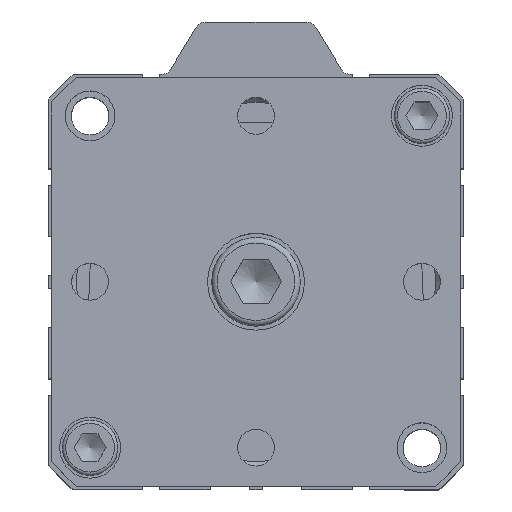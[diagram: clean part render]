
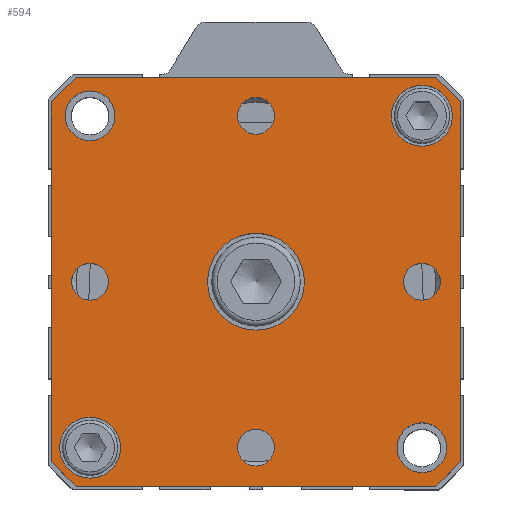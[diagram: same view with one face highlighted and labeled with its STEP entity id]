
A CAD part, top view. The second image highlights one B-rep face of the part: STEP entity #594.
In plain terms, the highlighted planar face has unit normal (0, 0, 1).
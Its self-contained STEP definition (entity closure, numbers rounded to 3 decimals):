
#196=CARTESIAN_POINT('',(32.859,35.684,85.5));
#197=VERTEX_POINT('',#196);
#198=CARTESIAN_POINT('',(37.359,31.184,85.5));
#199=VERTEX_POINT('',#198);
#200=CARTESIAN_POINT('',(32.859,35.684,85.5));
#201=DIRECTION('',(0.707,-0.707,0.0));
#202=VECTOR('',#201,6.364);
#203=LINE('',#200,#202);
#204=EDGE_CURVE('',#197,#199,#203,.T.);
#383=CARTESIAN_POINT('',(37.359,-33.816,85.5));
#384=VERTEX_POINT('',#383);
#385=CARTESIAN_POINT('',(37.359,31.184,85.5));
#386=DIRECTION('',(0.0,-1.0,0.0));
#387=VECTOR('',#386,65.);
#388=LINE('',#385,#387);
#389=EDGE_CURVE('',#199,#384,#388,.T.);
#406=CARTESIAN_POINT('',(32.859,-38.316,85.5));
#407=VERTEX_POINT('',#406);
#408=CARTESIAN_POINT('',(37.359,-33.816,85.5));
#409=DIRECTION('',(-0.707,-0.707,0.0));
#410=VECTOR('',#409,6.364);
#411=LINE('',#408,#410);
#412=EDGE_CURVE('',#384,#407,#411,.T.);
#430=CARTESIAN_POINT('',(-36.641,31.184,85.5));
#431=VERTEX_POINT('',#430);
#432=CARTESIAN_POINT('',(-32.141,35.684,85.5));
#433=VERTEX_POINT('',#432);
#434=CARTESIAN_POINT('',(-36.641,31.184,85.5));
#435=DIRECTION('',(0.707,0.707,0.0));
#436=VECTOR('',#435,6.364);
#437=LINE('',#434,#436);
#438=EDGE_CURVE('',#431,#433,#437,.T.);
#456=CARTESIAN_POINT('',(0.359,-1.316,85.5));
#457=DIRECTION('',(0.0,0.0,1.0));
#458=DIRECTION('',(1.0,0.0,0.0));
#459=AXIS2_PLACEMENT_3D('',#456,#457,#458);
#460=PLANE('',#459);
#461=ORIENTED_EDGE('',*,*,#204,.F.);
#462=CARTESIAN_POINT('',(-32.141,35.684,85.5));
#463=DIRECTION('',(1.0,0.0,0.0));
#464=VECTOR('',#463,65.0);
#465=LINE('',#462,#464);
#466=EDGE_CURVE('',#433,#197,#465,.T.);
#467=ORIENTED_EDGE('',*,*,#466,.F.);
#468=ORIENTED_EDGE('',*,*,#438,.F.);
#469=CARTESIAN_POINT('',(-36.641,-33.816,85.5));
#470=VERTEX_POINT('',#469);
#471=CARTESIAN_POINT('',(-36.641,-33.816,85.5));
#472=DIRECTION('',(0.0,1.0,0.0));
#473=VECTOR('',#472,65.0);
#474=LINE('',#471,#473);
#475=EDGE_CURVE('',#470,#431,#474,.T.);
#476=ORIENTED_EDGE('',*,*,#475,.F.);
#477=CARTESIAN_POINT('',(-32.141,-38.316,85.5));
#478=VERTEX_POINT('',#477);
#479=CARTESIAN_POINT('',(-32.141,-38.316,85.5));
#480=DIRECTION('',(-0.707,0.707,0.0));
#481=VECTOR('',#480,6.364);
#482=LINE('',#479,#481);
#483=EDGE_CURVE('',#478,#470,#482,.T.);
#484=ORIENTED_EDGE('',*,*,#483,.F.);
#485=CARTESIAN_POINT('',(32.859,-38.316,85.5));
#486=DIRECTION('',(-1.0,0.0,0.0));
#487=VECTOR('',#486,65.0);
#488=LINE('',#485,#487);
#489=EDGE_CURVE('',#407,#478,#488,.T.);
#490=ORIENTED_EDGE('',*,*,#489,.F.);
#491=ORIENTED_EDGE('',*,*,#412,.F.);
#492=ORIENTED_EDGE('',*,*,#389,.F.);
#493=EDGE_LOOP('',(#461,#467,#468,#476,#484,#490,#491,#492));
#494=FACE_OUTER_BOUND('',#493,.T.);
#495=CARTESIAN_POINT('',(9.109,-1.316,85.5));
#496=VERTEX_POINT('',#495);
#497=CARTESIAN_POINT('',(0.359,-1.316,85.5));
#498=DIRECTION('',(0.0,0.0,-1.0));
#499=DIRECTION('',(1.0,0.0,0.0));
#500=AXIS2_PLACEMENT_3D('',#497,#498,#499);
#501=CIRCLE('',#500,8.75);
#502=EDGE_CURVE('',#496,#496,#501,.T.);
#503=ORIENTED_EDGE('',*,*,#502,.T.);
#504=EDGE_LOOP('',(#503));
#505=FACE_BOUND('',#504,.T.);
#506=CARTESIAN_POINT('',(-24.141,-31.316,85.5));
#507=VERTEX_POINT('',#506);
#508=CARTESIAN_POINT('',(-29.641,-31.316,85.5));
#509=DIRECTION('',(0.0,0.0,-1.0));
#510=DIRECTION('',(1.0,0.0,0.0));
#511=AXIS2_PLACEMENT_3D('',#508,#509,#510);
#512=CIRCLE('',#511,5.5);
#513=EDGE_CURVE('',#507,#507,#512,.T.);
#514=ORIENTED_EDGE('',*,*,#513,.T.);
#515=EDGE_LOOP('',(#514));
#516=FACE_BOUND('',#515,.T.);
#517=CARTESIAN_POINT('',(35.859,28.684,85.5));
#518=VERTEX_POINT('',#517);
#519=CARTESIAN_POINT('',(30.359,28.684,85.5));
#520=DIRECTION('',(0.0,0.0,-1.0));
#521=DIRECTION('',(1.0,0.0,0.0));
#522=AXIS2_PLACEMENT_3D('',#519,#520,#521);
#523=CIRCLE('',#522,5.5);
#524=EDGE_CURVE('',#518,#518,#523,.T.);
#525=ORIENTED_EDGE('',*,*,#524,.T.);
#526=EDGE_LOOP('',(#525));
#527=FACE_BOUND('',#526,.T.);
#528=CARTESIAN_POINT('',(33.682,-1.316,85.5));
#529=VERTEX_POINT('',#528);
#530=CARTESIAN_POINT('',(30.359,-1.316,85.5));
#531=DIRECTION('',(0.0,0.0,-1.0));
#532=DIRECTION('',(1.0,0.0,0.0));
#533=AXIS2_PLACEMENT_3D('',#530,#531,#532);
#534=CIRCLE('',#533,3.324);
#535=EDGE_CURVE('',#529,#529,#534,.T.);
#536=ORIENTED_EDGE('',*,*,#535,.T.);
#537=EDGE_LOOP('',(#536));
#538=FACE_BOUND('',#537,.T.);
#539=CARTESIAN_POINT('',(3.682,-31.316,85.5));
#540=VERTEX_POINT('',#539);
#541=CARTESIAN_POINT('',(0.359,-31.316,85.5));
#542=DIRECTION('',(0.0,0.0,-1.0));
#543=DIRECTION('',(1.0,0.0,0.0));
#544=AXIS2_PLACEMENT_3D('',#541,#542,#543);
#545=CIRCLE('',#544,3.324);
#546=EDGE_CURVE('',#540,#540,#545,.T.);
#547=ORIENTED_EDGE('',*,*,#546,.T.);
#548=EDGE_LOOP('',(#547));
#549=FACE_BOUND('',#548,.T.);
#550=CARTESIAN_POINT('',(-26.318,-1.316,85.5));
#551=VERTEX_POINT('',#550);
#552=CARTESIAN_POINT('',(-29.641,-1.316,85.5));
#553=DIRECTION('',(0.0,0.0,-1.0));
#554=DIRECTION('',(1.0,0.0,0.0));
#555=AXIS2_PLACEMENT_3D('',#552,#553,#554);
#556=CIRCLE('',#555,3.324);
#557=EDGE_CURVE('',#551,#551,#556,.T.);
#558=ORIENTED_EDGE('',*,*,#557,.T.);
#559=EDGE_LOOP('',(#558));
#560=FACE_BOUND('',#559,.T.);
#561=CARTESIAN_POINT('',(3.682,28.684,85.5));
#562=VERTEX_POINT('',#561);
#563=CARTESIAN_POINT('',(0.359,28.684,85.5));
#564=DIRECTION('',(0.0,0.0,-1.0));
#565=DIRECTION('',(1.0,0.0,0.0));
#566=AXIS2_PLACEMENT_3D('',#563,#564,#565);
#567=CIRCLE('',#566,3.324);
#568=EDGE_CURVE('',#562,#562,#567,.T.);
#569=ORIENTED_EDGE('',*,*,#568,.T.);
#570=EDGE_LOOP('',(#569));
#571=FACE_BOUND('',#570,.T.);
#572=CARTESIAN_POINT('',(34.859,-31.316,85.5));
#573=VERTEX_POINT('',#572);
#574=CARTESIAN_POINT('',(30.359,-31.316,85.5));
#575=DIRECTION('',(0.0,0.0,-1.0));
#576=DIRECTION('',(-1.0,0.0,0.0));
#577=AXIS2_PLACEMENT_3D('',#574,#575,#576);
#578=CIRCLE('',#577,4.5);
#579=EDGE_CURVE('',#573,#573,#578,.T.);
#580=ORIENTED_EDGE('',*,*,#579,.T.);
#581=EDGE_LOOP('',(#580));
#582=FACE_BOUND('',#581,.T.);
#583=CARTESIAN_POINT('',(-25.141,28.684,85.5));
#584=VERTEX_POINT('',#583);
#585=CARTESIAN_POINT('',(-29.641,28.684,85.5));
#586=DIRECTION('',(0.0,0.0,-1.0));
#587=DIRECTION('',(-1.0,0.0,0.0));
#588=AXIS2_PLACEMENT_3D('',#585,#586,#587);
#589=CIRCLE('',#588,4.5);
#590=EDGE_CURVE('',#584,#584,#589,.T.);
#591=ORIENTED_EDGE('',*,*,#590,.T.);
#592=EDGE_LOOP('',(#591));
#593=FACE_BOUND('',#592,.T.);
#594=ADVANCED_FACE('',(#494,#505,#516,#527,#538,#549,#560,#571,#582,#593),#460,.T.);
